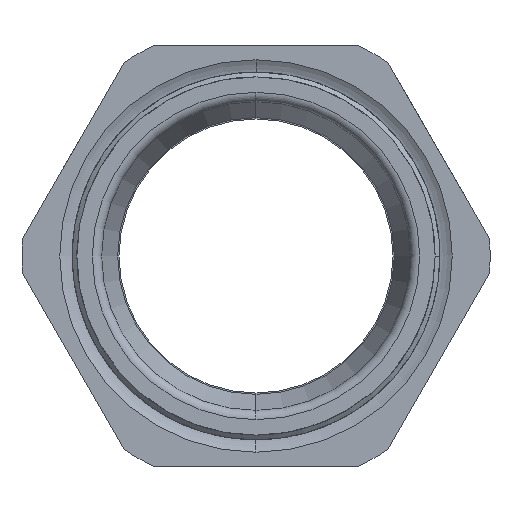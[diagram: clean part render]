
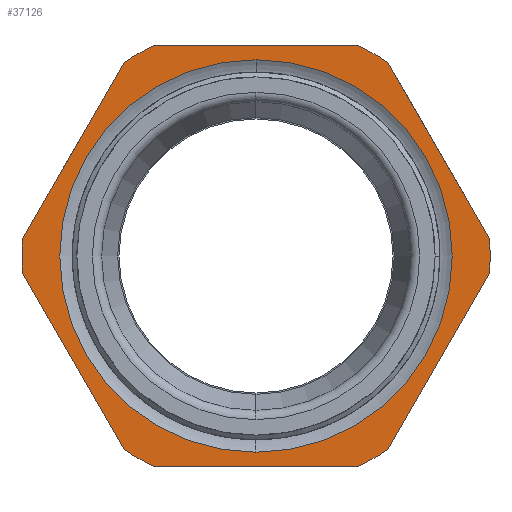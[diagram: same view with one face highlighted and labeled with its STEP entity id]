
A CAD part, front view. The second image highlights one B-rep face of the part: STEP entity #37126.
In plain terms, the highlighted planar face has unit normal (0, -1, 0).
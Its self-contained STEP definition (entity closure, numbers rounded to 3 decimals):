
#33 = CARTESIAN_POINT ( 'NONE',  ( -21.243, 15., -31.206 ) ) ;
#81 = VERTEX_POINT ( 'NONE', #24142 ) ;
#305 = DIRECTION ( 'NONE',  ( 0., 0., -1. ) ) ;
#454 = VERTEX_POINT ( 'NONE', #11021 ) ;
#621 = DIRECTION ( 'NONE',  ( 0., 0., -1. ) ) ;
#657 = ORIENTED_EDGE ( 'NONE', *, *, #19583, .T. ) ;
#709 = CIRCLE ( 'NONE', #4362, 37.75 ) ;
#846 = LINE ( 'NONE', #19192, #26586 ) ;
#930 = ORIENTED_EDGE ( 'NONE', *, *, #37930, .F. ) ;
#958 = VERTEX_POINT ( 'NONE', #18756 ) ;
#1210 = AXIS2_PLACEMENT_3D ( 'NONE', #4893, #20282, #37969 ) ;
#1519 = VERTEX_POINT ( 'NONE', #22942 ) ;
#1639 = EDGE_CURVE ( 'NONE', #16987, #36035, #20588, .T. ) ;
#1693 = LINE ( 'NONE', #19804, #32557 ) ;
#1933 = CARTESIAN_POINT ( 'NONE',  ( 37.646, 15., 2.794 ) ) ;
#2659 = CARTESIAN_POINT ( 'NONE',  ( 0., 15., 0. ) ) ;
#2800 = CIRCLE ( 'NONE', #16795, 37.75 ) ;
#3470 = EDGE_CURVE ( 'NONE', #36035, #20939, #846, .T. ) ;
#3564 = CARTESIAN_POINT ( 'NONE',  ( 0., 15., 0. ) ) ;
#3614 = CARTESIAN_POINT ( 'NONE',  ( 0., 15., 0. ) ) ;
#3700 = EDGE_LOOP ( 'NONE', ( #930, #7222 ) ) ;
#3737 = DIRECTION ( 'NONE',  ( 0., -1., 0. ) ) ;
#4362 = AXIS2_PLACEMENT_3D ( 'NONE', #3564, #30090, #305 ) ;
#4446 = CARTESIAN_POINT ( 'NONE',  ( 16.403, 15., 34. ) ) ;
#4893 = CARTESIAN_POINT ( 'NONE',  ( 31.65, 15., 0. ) ) ;
#4991 = EDGE_CURVE ( 'NONE', #27284, #25241, #6849, .T. ) ;
#5134 = CIRCLE ( 'NONE', #26524, 31.65 ) ;
#5539 = DIRECTION ( 'NONE',  ( 0., -1., 0. ) ) ;
#5975 = DIRECTION ( 'NONE',  ( 0., -1., 0. ) ) ;
#6359 = VECTOR ( 'NONE', #35651, 1000. ) ;
#6456 = CARTESIAN_POINT ( 'NONE',  ( -37.646, 15., -2.794 ) ) ;
#6506 = DIRECTION ( 'NONE',  ( 0., 0., -1. ) ) ;
#6849 = LINE ( 'NONE', #8333, #6359 ) ;
#7222 = ORIENTED_EDGE ( 'NONE', *, *, #28731, .F. ) ;
#8242 = DIRECTION ( 'NONE',  ( -0.5, 0., -0.866 ) ) ;
#8333 = CARTESIAN_POINT ( 'NONE',  ( 37.357, 15., 3.295 ) ) ;
#8854 = FACE_OUTER_BOUND ( 'NONE', #14576, .T. ) ;
#8856 = ORIENTED_EDGE ( 'NONE', *, *, #3470, .T. ) ;
#8937 = DIRECTION ( 'NONE',  ( 0., -1., 0. ) ) ;
#9296 = LINE ( 'NONE', #21462, #27563 ) ;
#9511 = CARTESIAN_POINT ( 'NONE',  ( -16.403, 15., 34. ) ) ;
#9821 = DIRECTION ( 'NONE',  ( 0.5, 0., -0.866 ) ) ;
#10306 = DIRECTION ( 'NONE',  ( 0., 0., -1. ) ) ;
#10683 = ORIENTED_EDGE ( 'NONE', *, *, #18298, .T. ) ;
#11021 = CARTESIAN_POINT ( 'NONE',  ( 16.403, 15., -34. ) ) ;
#11428 = LINE ( 'NONE', #28942, #23488 ) ;
#12919 = ORIENTED_EDGE ( 'NONE', *, *, #30976, .T. ) ;
#13128 = EDGE_CURVE ( 'NONE', #36589, #23329, #1693, .T. ) ;
#14300 = PLANE ( 'NONE',  #1210 ) ;
#14315 = DIRECTION ( 'NONE',  ( 0., 0., -1. ) ) ;
#14576 = EDGE_LOOP ( 'NONE', ( #30339, #25627, #21620, #24891, #33089, #17869, #12919, #14584, #22119, #8856, #657, #10683 ) ) ;
#14584 = ORIENTED_EDGE ( 'NONE', *, *, #18906, .T. ) ;
#14849 = CARTESIAN_POINT ( 'NONE',  ( -37.646, 15., 2.794 ) ) ;
#15255 = CARTESIAN_POINT ( 'NONE',  ( 0., 15., 0. ) ) ;
#15815 = CARTESIAN_POINT ( 'NONE',  ( -16.403, 15., -34. ) ) ;
#16100 = VERTEX_POINT ( 'NONE', #16646 ) ;
#16646 = CARTESIAN_POINT ( 'NONE',  ( 37.646, 15., -2.794 ) ) ;
#16651 = DIRECTION ( 'NONE',  ( 0.5, 0., 0.866 ) ) ;
#16795 = AXIS2_PLACEMENT_3D ( 'NONE', #15255, #5975, #26878 ) ;
#16987 = VERTEX_POINT ( 'NONE', #14849 ) ;
#17869 = ORIENTED_EDGE ( 'NONE', *, *, #13128, .T. ) ;
#18248 = AXIS2_PLACEMENT_3D ( 'NONE', #37678, #25637, #20128 ) ;
#18298 = EDGE_CURVE ( 'NONE', #30486, #454, #9296, .T. ) ;
#18704 = AXIS2_PLACEMENT_3D ( 'NONE', #2659, #5539, #14315 ) ;
#18756 = CARTESIAN_POINT ( 'NONE',  ( -21.243, 15., 31.206 ) ) ;
#18906 = EDGE_CURVE ( 'NONE', #958, #16987, #28597, .T. ) ;
#19192 = CARTESIAN_POINT ( 'NONE',  ( -21.532, 15., -30.705 ) ) ;
#19583 = EDGE_CURVE ( 'NONE', #20939, #30486, #2800, .T. ) ;
#19804 = CARTESIAN_POINT ( 'NONE',  ( 31.65, 15., 34. ) ) ;
#20128 = DIRECTION ( 'NONE',  ( 0., 0., -1. ) ) ;
#20282 = DIRECTION ( 'NONE',  ( 0., -1., 0. ) ) ;
#20572 = CIRCLE ( 'NONE', #34025, 37.75 ) ;
#20588 = CIRCLE ( 'NONE', #29389, 37.75 ) ;
#20939 = VERTEX_POINT ( 'NONE', #33 ) ;
#21326 = DIRECTION ( 'NONE',  ( 1., 0., 0. ) ) ;
#21462 = CARTESIAN_POINT ( 'NONE',  ( 31.65, 15., -34. ) ) ;
#21620 = ORIENTED_EDGE ( 'NONE', *, *, #36895, .T. ) ;
#22119 = ORIENTED_EDGE ( 'NONE', *, *, #1639, .T. ) ;
#22430 = FACE_BOUND ( 'NONE', #3700, .T. ) ;
#22942 = CARTESIAN_POINT ( 'NONE',  ( 0., 15., -31.65 ) ) ;
#23329 = VERTEX_POINT ( 'NONE', #9511 ) ;
#23488 = VECTOR ( 'NONE', #16651, 1000. ) ;
#23770 = CIRCLE ( 'NONE', #18704, 31.65 ) ;
#23791 = EDGE_CURVE ( 'NONE', #25241, #36589, #709, .T. ) ;
#23823 = CARTESIAN_POINT ( 'NONE',  ( 0., 15., 0. ) ) ;
#24111 = CARTESIAN_POINT ( 'NONE',  ( 0., 15., 0. ) ) ;
#24142 = CARTESIAN_POINT ( 'NONE',  ( 0., 15., 31.65 ) ) ;
#24256 = DIRECTION ( 'NONE',  ( 0., -1., 0. ) ) ;
#24480 = AXIS2_PLACEMENT_3D ( 'NONE', #33942, #28193, #10306 ) ;
#24891 = ORIENTED_EDGE ( 'NONE', *, *, #4991, .T. ) ;
#25241 = VERTEX_POINT ( 'NONE', #31807 ) ;
#25617 = CARTESIAN_POINT ( 'NONE',  ( 21.243, 15., -31.206 ) ) ;
#25627 = ORIENTED_EDGE ( 'NONE', *, *, #26315, .T. ) ;
#25637 = DIRECTION ( 'NONE',  ( 0., -1., 0. ) ) ;
#25695 = DIRECTION ( 'NONE',  ( -1., 0., 0. ) ) ;
#25846 = VERTEX_POINT ( 'NONE', #25617 ) ;
#26315 = EDGE_CURVE ( 'NONE', #25846, #16100, #11428, .T. ) ;
#26524 = AXIS2_PLACEMENT_3D ( 'NONE', #24111, #3737, #6506 ) ;
#26586 = VECTOR ( 'NONE', #9821, 1000. ) ;
#26878 = DIRECTION ( 'NONE',  ( 0., 0., -1. ) ) ;
#27284 = VERTEX_POINT ( 'NONE', #1933 ) ;
#27374 = VECTOR ( 'NONE', #8242, 1000. ) ;
#27540 = CIRCLE ( 'NONE', #24480, 37.75 ) ;
#27563 = VECTOR ( 'NONE', #21326, 1000. ) ;
#28193 = DIRECTION ( 'NONE',  ( 0., -1., 0. ) ) ;
#28597 = LINE ( 'NONE', #38190, #27374 ) ;
#28731 = EDGE_CURVE ( 'NONE', #81, #1519, #23770, .T. ) ;
#28942 = CARTESIAN_POINT ( 'NONE',  ( 37.357, 15., -3.295 ) ) ;
#29389 = AXIS2_PLACEMENT_3D ( 'NONE', #23823, #8937, #32858 ) ;
#30090 = DIRECTION ( 'NONE',  ( 0., -1., 0. ) ) ;
#30339 = ORIENTED_EDGE ( 'NONE', *, *, #38061, .T. ) ;
#30486 = VERTEX_POINT ( 'NONE', #15815 ) ;
#30976 = EDGE_CURVE ( 'NONE', #23329, #958, #35892, .T. ) ;
#31807 = CARTESIAN_POINT ( 'NONE',  ( 21.243, 15., 31.206 ) ) ;
#32557 = VECTOR ( 'NONE', #25695, 1000. ) ;
#32858 = DIRECTION ( 'NONE',  ( 0., 0., -1. ) ) ;
#33089 = ORIENTED_EDGE ( 'NONE', *, *, #23791, .T. ) ;
#33942 = CARTESIAN_POINT ( 'NONE',  ( 0., 15., 0. ) ) ;
#34025 = AXIS2_PLACEMENT_3D ( 'NONE', #3614, #24256, #621 ) ;
#35651 = DIRECTION ( 'NONE',  ( -0.5, 0., 0.866 ) ) ;
#35892 = CIRCLE ( 'NONE', #18248, 37.75 ) ;
#36035 = VERTEX_POINT ( 'NONE', #6456 ) ;
#36589 = VERTEX_POINT ( 'NONE', #4446 ) ;
#36895 = EDGE_CURVE ( 'NONE', #16100, #27284, #20572, .T. ) ;
#37126 = ADVANCED_FACE ( 'NONE', ( #22430, #8854 ), #14300, .T. ) ;
#37678 = CARTESIAN_POINT ( 'NONE',  ( 0., 15., 0. ) ) ;
#37930 = EDGE_CURVE ( 'NONE', #1519, #81, #5134, .T. ) ;
#37969 = DIRECTION ( 'NONE',  ( 0., 0., -1. ) ) ;
#38061 = EDGE_CURVE ( 'NONE', #454, #25846, #27540, .T. ) ;
#38190 = CARTESIAN_POINT ( 'NONE',  ( -21.532, 15., 30.705 ) ) ;
